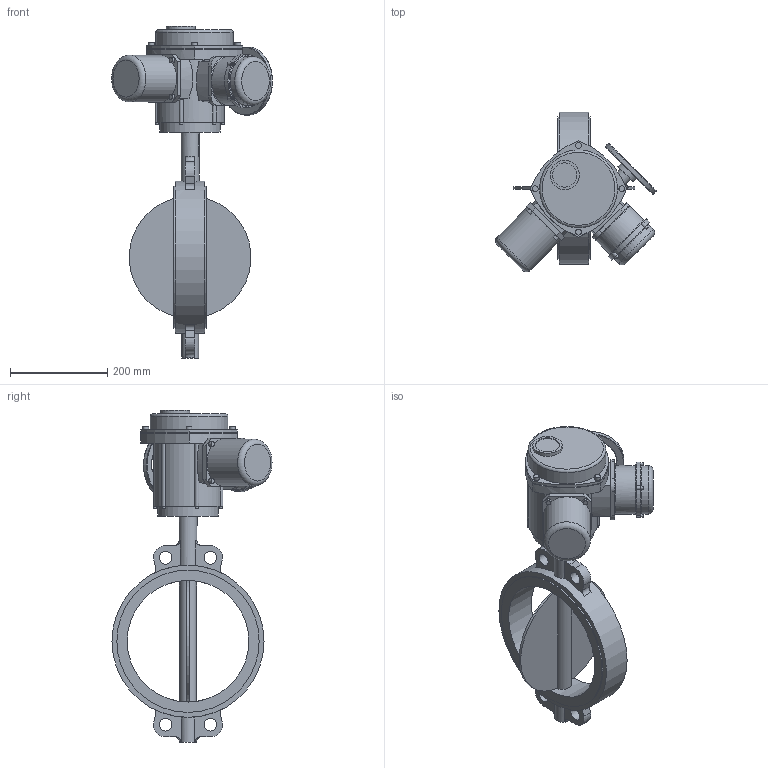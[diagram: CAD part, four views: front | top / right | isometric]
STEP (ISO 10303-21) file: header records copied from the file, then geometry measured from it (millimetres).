
FILE_DESCRIPTION(('STEP AP203'), '1');
FILE_NAME('青蜮铕 017W.Y_DN250_PN16_QT.Z 40', '', ('UNSPECIFIED'), ('UNSPECIFIED'), 'ASCON STEP Converter 1.6', 'ASCON Math Kernel', '');
FILE_SCHEMA(('CONFIG_CONTROL_DESIGN'));
Length unit declared in the file: millimetre
Bounding box: 330.59 x 328.81 x 682 mm (x, y, z)
Volume: 8188886.5 mm3; surface area: 645771.7 mm2
Topology: 1 solids, 1 shells, 306 faces, 725 edges, 453 vertices
Faces by surface type: cylinder 139, plane 106, torus 45, cone 8, bspline 8
Full cylindrical faces by diameter (mm): 6 x10, 8.376 x4, 10 x4, 12 x8, 12.386 x1, 26 x4, 30 x1, 35 x2, 37 x1, 45 x1, 50 x1, 60 x1, 96 x1, 100 x2, 125 x1, 140 x1, 160 x1, 250 x1, 292.4 x2, 312.4 x1
Entity records: 13440 total; most frequent: CARTESIAN_POINT 3982, DIRECTION 1560, ORIENTED_EDGE 1296, AXIS2_PLACEMENT_3D 661, EDGE_CURVE 648, VERTEX_POINT 448, EDGE_LOOP 430, CIRCLE 362
